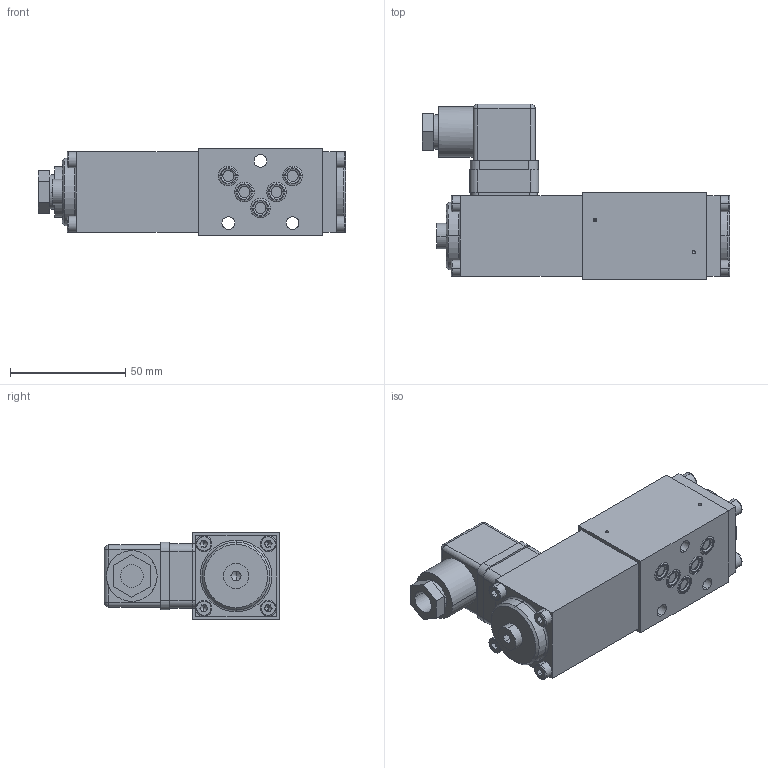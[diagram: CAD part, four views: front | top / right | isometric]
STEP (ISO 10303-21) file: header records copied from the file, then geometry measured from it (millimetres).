
FILE_DESCRIPTION (( 'STEP AP214' ), '1' );
FILE_NAME ('B.32041a.STEP', '2017-03-17T12:30:41', ( '' ), ( '' ), 'SwSTEP 2.0', 'SolidWorks 2016', '' );
FILE_SCHEMA (( 'AUTOMOTIVE_DESIGN' ));
Length unit declared in the file: millimetre
Products named in the file (1): B.32041a
Bounding box: 133.5 x 76.3 x 38 mm (x, y, z)
Volume: 181918.5 mm3; surface area: 43336.5 mm2
Topology: 19 solids, 28 shells, 842 faces, 2036 edges, 1261 vertices
Faces by surface type: plane 434, cylinder 233, cone 75, bspline 62, torus 34, sphere 4
Entity records: 35206 total; most frequent: CARTESIAN_POINT 6189, DIRECTION 4114, ORIENTED_EDGE 3980, EDGE_CURVE 1990, AXIS2_PLACEMENT_3D 1466, VERTEX_POINT 1261, LINE 1182, VECTOR 1182
